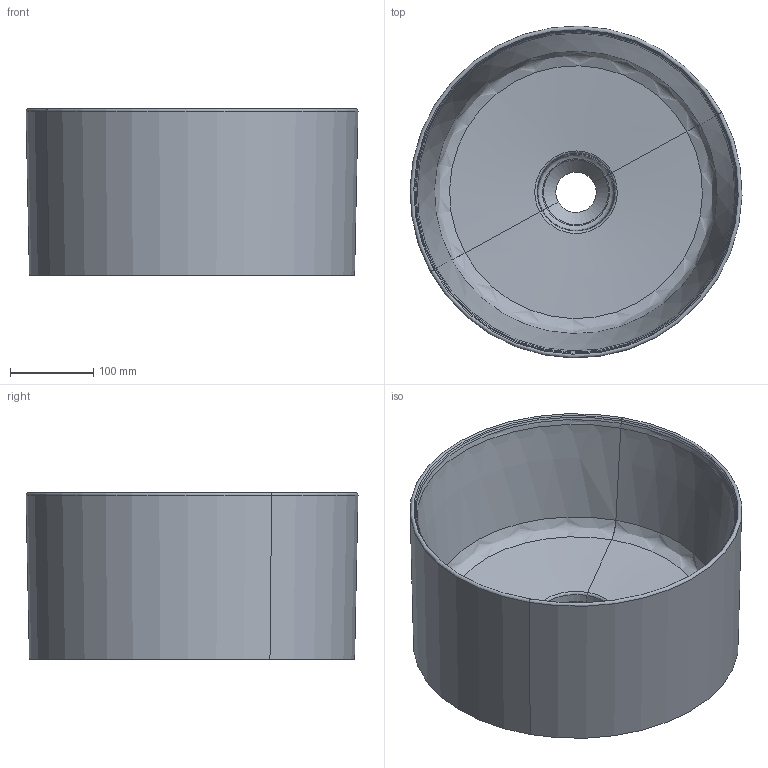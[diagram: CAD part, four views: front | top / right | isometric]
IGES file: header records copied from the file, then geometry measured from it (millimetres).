
Start section: START RECORD GO HERE.
Global section: file name: 3D ART 7306 Lavabo Core 40 h20.igs; native system: DASSAULT SYSTEMES CATIA V5 R19 - www.3ds.com; preprocessor: CATIA Version 5 Release 19 SP 5 ; author: Luca; organization: DESKTOP-V7SON24; date: 20201006.162402; units: millimetre
Bounding box: 399.7 x 399.7 x 200.32 mm (x, y, z)
Surface area: 672203.5 mm2 (no closed solid volume)
Topology: 0 solids, 0 shells, 54 faces, 216 edges, 216 vertices
Faces by surface type: revolution 50, plane 4
